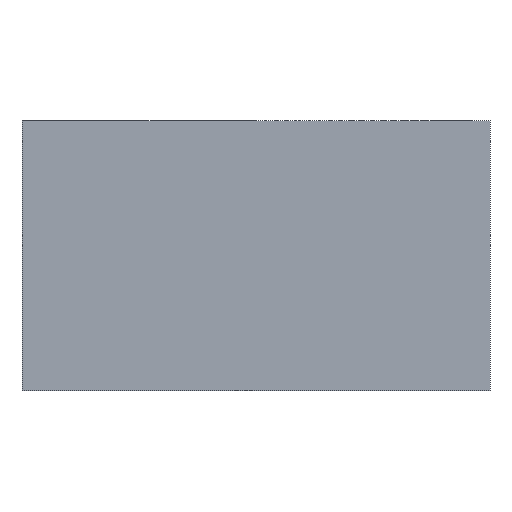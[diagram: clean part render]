
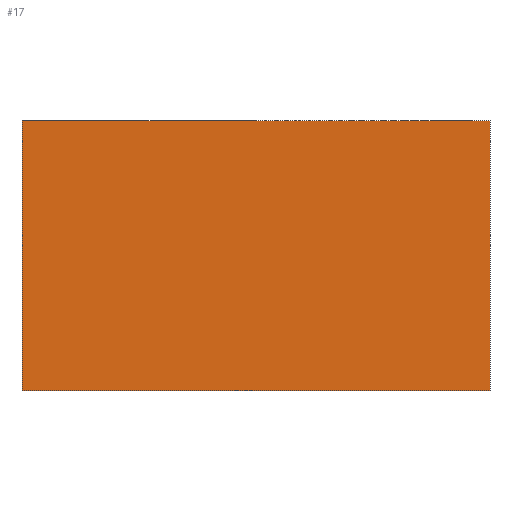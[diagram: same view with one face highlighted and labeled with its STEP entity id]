
A CAD part, front view. The second image highlights one B-rep face of the part: STEP entity #17.
In plain terms, the highlighted planar face has unit normal (0, -1, 0).
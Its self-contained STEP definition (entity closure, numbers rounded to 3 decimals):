
#17 = ADVANCED_FACE ( 'NONE', ( #164 ), #734, .F. ) ;
#40 = VECTOR ( 'NONE', #550, 1000. ) ;
#41 = LINE ( 'NONE', #551, #40 ) ;
#62 = VECTOR ( 'NONE', #572, 1000. ) ;
#63 = LINE ( 'NONE', #573, #62 ) ;
#111 = VECTOR ( 'NONE', #621, 1000. ) ;
#120 = LINE ( 'NONE', #624, #111 ) ;
#127 = VECTOR ( 'NONE', #637, 1000. ) ;
#128 = LINE ( 'NONE', #638, #127 ) ;
#164 = FACE_OUTER_BOUND ( 'NONE', #204, .T. ) ;
#204 = EDGE_LOOP ( 'NONE', ( #270, #271, #272, #273 ) ) ;
#270 = ORIENTED_EDGE ( 'NONE', *, *, #473, .T. ) ;
#271 = ORIENTED_EDGE ( 'NONE', *, *, #494, .F. ) ;
#272 = ORIENTED_EDGE ( 'NONE', *, *, #432, .F. ) ;
#273 = ORIENTED_EDGE ( 'NONE', *, *, #442, .T. ) ;
#387 = VERTEX_POINT ( 'NONE', #693 ) ;
#393 = VERTEX_POINT ( 'NONE', #687 ) ;
#397 = VERTEX_POINT ( 'NONE', #683 ) ;
#399 = VERTEX_POINT ( 'NONE', #681 ) ;
#432 = EDGE_CURVE ( 'NONE', #399, #397, #128, .T. ) ;
#442 = EDGE_CURVE ( 'NONE', #399, #387, #120, .T. ) ;
#473 = EDGE_CURVE ( 'NONE', #387, #393, #63, .T. ) ;
#494 = EDGE_CURVE ( 'NONE', #397, #393, #41, .T. ) ;
#496 = AXIS2_PLACEMENT_3D ( 'NONE', #730, #724, #723 ) ;
#550 = DIRECTION ( 'NONE',  ( 0., 0., -1. ) ) ;
#551 = CARTESIAN_POINT ( 'NONE',  ( 104., 0., 120. ) ) ;
#572 = DIRECTION ( 'NONE',  ( 1., 0., 0. ) ) ;
#573 = CARTESIAN_POINT ( 'NONE',  ( -104., 0., 0. ) ) ;
#621 = DIRECTION ( 'NONE',  ( 0., 0., -1. ) ) ;
#624 = CARTESIAN_POINT ( 'NONE',  ( -104., 0., 120. ) ) ;
#637 = DIRECTION ( 'NONE',  ( 1., 0., 0. ) ) ;
#638 = CARTESIAN_POINT ( 'NONE',  ( -104., 0., 120. ) ) ;
#681 = CARTESIAN_POINT ( 'NONE',  ( -104., 0., 120. ) ) ;
#683 = CARTESIAN_POINT ( 'NONE',  ( 104., 0., 120. ) ) ;
#687 = CARTESIAN_POINT ( 'NONE',  ( 104., 0., 0. ) ) ;
#693 = CARTESIAN_POINT ( 'NONE',  ( -104., 0., 0. ) ) ;
#723 = DIRECTION ( 'NONE',  ( -1., 0., 0. ) ) ;
#724 = DIRECTION ( 'NONE',  ( 0., 1., 0. ) ) ;
#730 = CARTESIAN_POINT ( 'NONE',  ( -104., 0., 120. ) ) ;
#734 = PLANE ( 'NONE',  #496 ) ;
